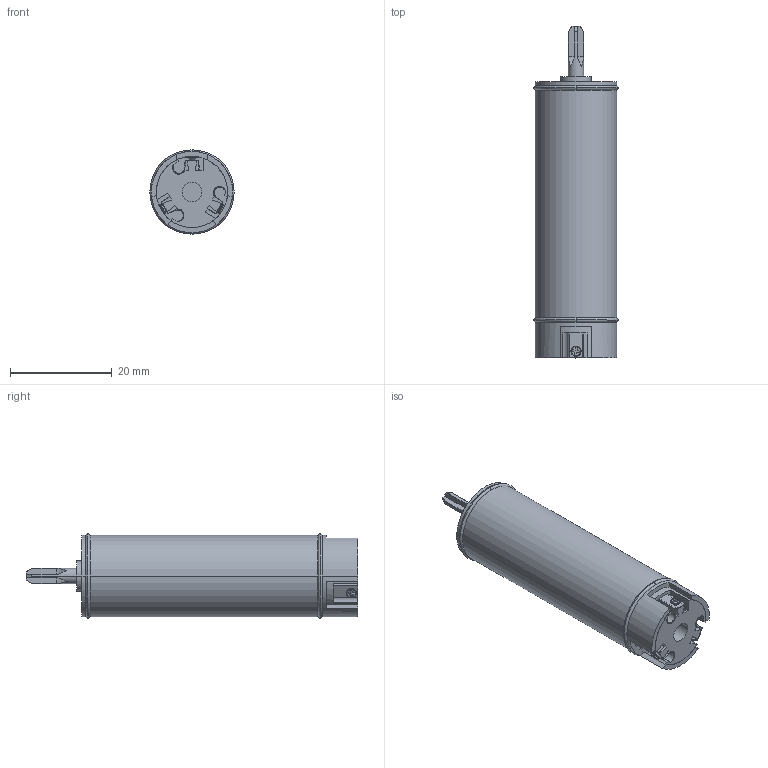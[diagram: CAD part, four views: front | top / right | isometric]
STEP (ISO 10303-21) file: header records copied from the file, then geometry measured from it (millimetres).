
FILE_DESCRIPTION((''),'2;1');
FILE_NAME('ASM0001_ASM','2026-09-15T10:57:55',('pc'),(''),'CREO PARAMETRIC BY PTC INC, 2018050','CREO PARAMETRIC BY PTC INC, 2018050','');
FILE_SCHEMA(('CONFIG_CONTROL_DESIGN','GEOMETRIC_VALIDATION_PROPERTIES_MIM'));
Length unit declared in the file: millimetre
Products named in the file (7): 1665; 000; 00; 200; ST2_FA; ASM0002_ASM; ASM0001_ASM
Assembly tree (9 placements, depth 3):
  ASM0001_ASM
    1665
    000  x2
    ASM0002_ASM
      00
      200
      ST2_FA  x3
Bounding box: 16.59 x 65.3 x 16.59 mm (x, y, z)
Volume: 10641.3 mm3; surface area: 4869.4 mm2
Topology: 10 solids, 10 shells, 281 faces, 716 edges, 449 vertices
Faces by surface type: plane 132, cylinder 81, bspline 32, torus 20, cone 10, revolution 6
Entity records: 9356 total; most frequent: CARTESIAN_POINT 2889, ORIENTED_EDGE 956, DIRECTION 947, EDGE_CURVE 478, PRESENTATION_STYLE_ASSIGNMENT 332, STYLED_ITEM 332, AXIS2_PLACEMENT_3D 326, VERTEX_POINT 311
